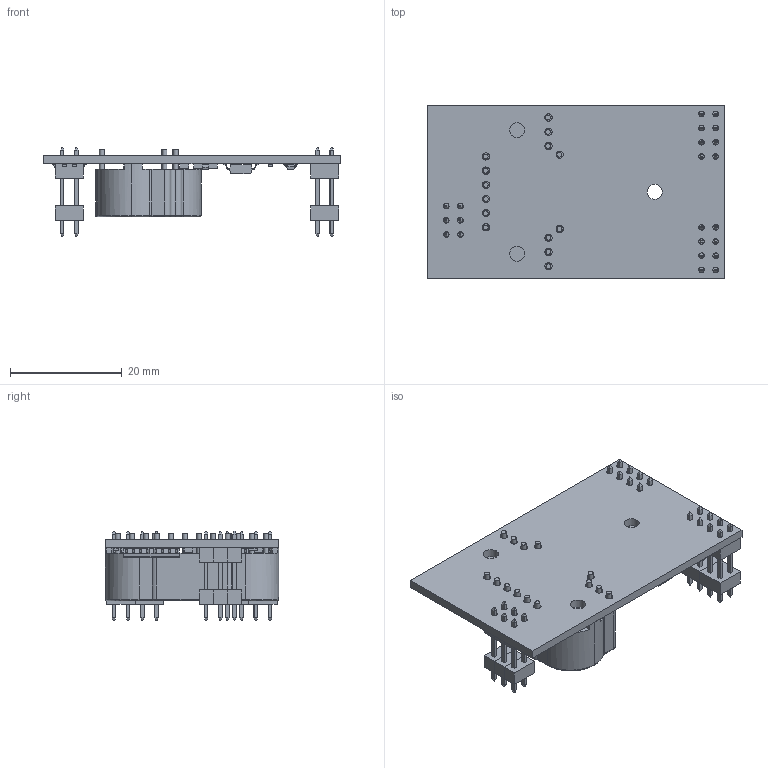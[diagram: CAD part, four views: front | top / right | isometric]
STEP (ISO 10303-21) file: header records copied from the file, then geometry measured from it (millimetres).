
FILE_DESCRIPTION(/* description */ ('Alibre Inc.'),/* implementation_level */ '2;1');
FILE_NAME(/* name */ 'export0',/* time_stamp */ '2016-03-03T15:02:00+01:00',/* author */ (''),/* organization */ (''),/* preprocessor_version */ 'ST-DEVELOPER v14',/* originating_system */ 'Alibre',/* authorisation */ '');
FILE_SCHEMA (('AUTOMOTIVE_DESIGN'));
Length unit declared in the file: millimetre
Bounding box: 53.09 x 31.01 x 16 mm (x, y, z)
Volume: 7429.6 mm3; surface area: 9122.4 mm2
Topology: 146 solids, 146 shells, 2739 faces, 6734 edges, 4238 vertices
Faces by surface type: plane 2082, cylinder 540, bspline 96, torus 17, cone 4
Full cylindrical faces by diameter (mm): 0.2 x2, 0.88 x14, 1 x25, 1.3 x14, 2.7 x3
Entity records: 27437 total; most frequent: CARTESIAN_POINT 4905, DIRECTION 4114, ORIENTED_EDGE 4112, EDGE_CURVE 2056, VECTOR 1570, LINE 1570, AXIS2_PLACEMENT_3D 1557, VERTEX_POINT 1316
